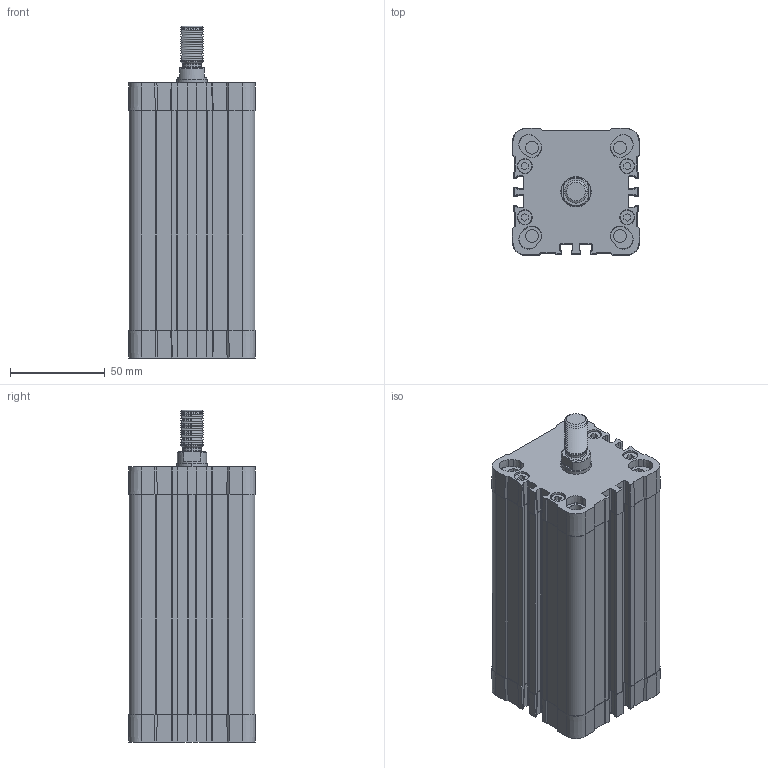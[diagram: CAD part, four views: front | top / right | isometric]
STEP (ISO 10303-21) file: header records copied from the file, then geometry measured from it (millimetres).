
FILE_DESCRIPTION (( 'STEP AP214' ), '1' );
FILE_NAME ('NSKI050.0100 M.STEP', '2011-06-21T15:14:51', ( 'utente' ), ( '' ), 'SwSTEP 2.0', 'SolidWorks 2009', '' );
FILE_SCHEMA (( 'AUTOMOTIVE_DESIGN' ));
Length unit declared in the file: millimetre
Products named in the file (5): PISTON ROD-NSKI 050 M_STROKE 0100; NSKI050.0100 M; BARREL-NSKI50_STROKE 0100; REAR END CAP-NSKI 50; FRONT END CAP-NSKI 50
Assembly tree (4 placements, depth 2):
  NSKI050.0100 M
    PISTON ROD-NSKI 050 M_STROKE 0100
    REAR END CAP-NSKI 50
    FRONT END CAP-NSKI 50
    BARREL-NSKI50_STROKE 0100
Bounding box: 67 x 67 x 175 mm (x, y, z)
Volume: 402396.5 mm3; surface area: 119121.7 mm2
Topology: 4 solids, 4 shells, 1202 faces, 3111 edges, 1986 vertices
Faces by surface type: plane 613, cone 334, cylinder 251, torus 4
Entity records: 39857 total; most frequent: CARTESIAN_POINT 6494, DIRECTION 6473, ORIENTED_EDGE 6190, EDGE_CURVE 3095, AXIS2_PLACEMENT_3D 2237, LINE 1999, VECTOR 1999, VERTEX_POINT 1986
